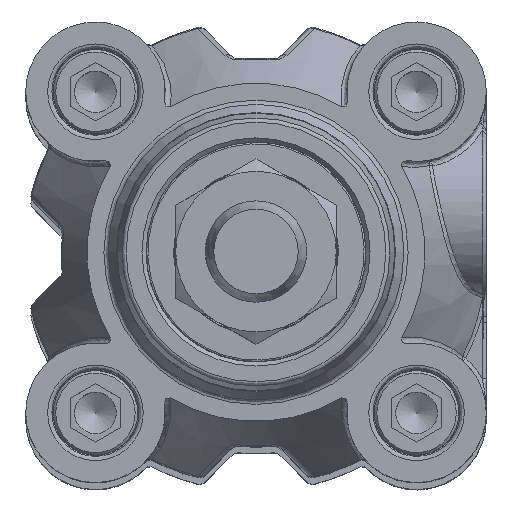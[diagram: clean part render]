
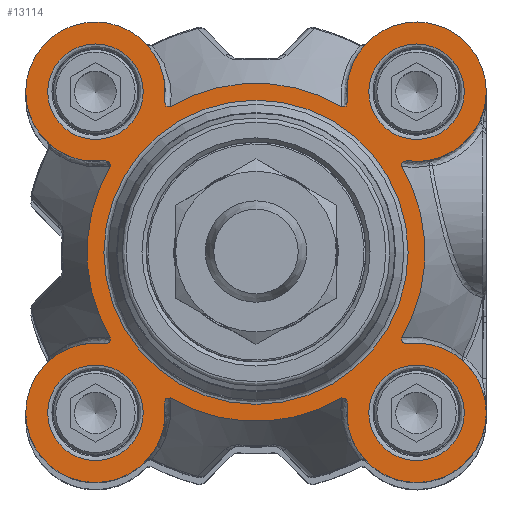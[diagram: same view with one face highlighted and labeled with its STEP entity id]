
A CAD part, top view. The second image highlights one B-rep face of the part: STEP entity #13114.
In plain terms, the highlighted planar face has unit normal (0, 0, 1).
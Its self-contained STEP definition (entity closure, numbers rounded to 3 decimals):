
#203=B_SPLINE_CURVE_WITH_KNOTS('',3,(#19034,#19035,#19036,#19037,#19038),
 .UNSPECIFIED.,.F.,.F.,(4,1,4),(0.,0.5,1.),.UNSPECIFIED.);
#205=B_SPLINE_CURVE_WITH_KNOTS('',3,(#19113,#19114,#19115,#19116,#19117),
 .UNSPECIFIED.,.F.,.F.,(4,1,4),(0.,0.5,1.),.UNSPECIFIED.);
#214=B_SPLINE_CURVE_WITH_KNOTS('',3,(#19276,#19277,#19278,#19279,#19280),
 .UNSPECIFIED.,.F.,.F.,(4,1,4),(0.,0.5,1.),.UNSPECIFIED.);
#215=B_SPLINE_CURVE_WITH_KNOTS('',3,(#19311,#19312,#19313,#19314,#19315),
 .UNSPECIFIED.,.F.,.F.,(4,1,4),(0.,0.5,1.),.UNSPECIFIED.);
#224=B_SPLINE_CURVE_WITH_KNOTS('',3,(#19499,#19500,#19501,#19502,#19503),
 .UNSPECIFIED.,.F.,.F.,(4,1,4),(0.,0.5,1.),.UNSPECIFIED.);
#228=B_SPLINE_CURVE_WITH_KNOTS('',3,(#19624,#19625,#19626,#19627,#19628),
 .UNSPECIFIED.,.F.,.F.,(4,1,4),(0.,0.5,1.),.UNSPECIFIED.);
#233=B_SPLINE_CURVE_WITH_KNOTS('',3,(#19723,#19724,#19725,#19726,#19727),
 .UNSPECIFIED.,.F.,.F.,(4,1,4),(0.,0.5,1.),.UNSPECIFIED.);
#247=B_SPLINE_CURVE_WITH_KNOTS('',3,(#19965,#19966,#19967,#19968,#19969),
 .UNSPECIFIED.,.F.,.F.,(4,1,4),(0.,0.5,1.),.UNSPECIFIED.);
#1885=PLANE('',#13905);
#2765=ORIENTED_EDGE('',*,*,#5528,.F.);
#2766=ORIENTED_EDGE('',*,*,#5529,.F.);
#2767=ORIENTED_EDGE('',*,*,#5517,.F.);
#2768=ORIENTED_EDGE('',*,*,#5509,.F.);
#2769=ORIENTED_EDGE('',*,*,#5513,.F.);
#2770=ORIENTED_EDGE('',*,*,#5521,.F.);
#2771=ORIENTED_EDGE('',*,*,#5310,.T.);
#2772=ORIENTED_EDGE('',*,*,#5456,.F.);
#2773=ORIENTED_EDGE('',*,*,#5449,.F.);
#2774=ORIENTED_EDGE('',*,*,#5466,.F.);
#2775=ORIENTED_EDGE('',*,*,#5252,.T.);
#2776=ORIENTED_EDGE('',*,*,#5486,.F.);
#2777=ORIENTED_EDGE('',*,*,#5477,.F.);
#2778=ORIENTED_EDGE('',*,*,#5414,.F.);
#2779=ORIENTED_EDGE('',*,*,#5346,.T.);
#2780=ORIENTED_EDGE('',*,*,#5416,.F.);
#2781=ORIENTED_EDGE('',*,*,#5426,.F.);
#2782=ORIENTED_EDGE('',*,*,#5431,.F.);
#2783=ORIENTED_EDGE('',*,*,#5382,.T.);
#2784=ORIENTED_EDGE('',*,*,#5432,.F.);
#2785=ORIENTED_EDGE('',*,*,#5442,.F.);
#2786=ORIENTED_EDGE('',*,*,#5447,.F.);
#5252=EDGE_CURVE('',#6750,#6748,#7771,.T.);
#5310=EDGE_CURVE('',#6806,#6804,#7792,.T.);
#5346=EDGE_CURVE('',#6824,#6822,#7806,.T.);
#5382=EDGE_CURVE('',#6842,#6840,#7820,.T.);
#5414=EDGE_CURVE('',#6824,#6853,#203,.F.);
#5416=EDGE_CURVE('',#6854,#6822,#205,.F.);
#5426=EDGE_CURVE('',#6861,#6854,#7834,.T.);
#5431=EDGE_CURVE('',#6842,#6861,#214,.F.);
#5432=EDGE_CURVE('',#6862,#6840,#215,.F.);
#5442=EDGE_CURVE('',#6869,#6862,#7838,.T.);
#5447=EDGE_CURVE('',#6806,#6869,#224,.F.);
#5449=EDGE_CURVE('',#6870,#6872,#7841,.T.);
#5456=EDGE_CURVE('',#6872,#6804,#228,.F.);
#5466=EDGE_CURVE('',#6750,#6870,#233,.F.);
#5477=EDGE_CURVE('',#6853,#6886,#7852,.T.);
#5486=EDGE_CURVE('',#6886,#6748,#247,.F.);
#5509=EDGE_CURVE('',#6904,#6904,#7857,.T.);
#5513=EDGE_CURVE('',#6907,#6907,#7861,.T.);
#5517=EDGE_CURVE('',#6910,#6910,#7865,.T.);
#5521=EDGE_CURVE('',#6913,#6913,#7869,.T.);
#5528=EDGE_CURVE('',#6918,#6919,#7875,.T.);
#5529=EDGE_CURVE('',#6919,#6918,#7876,.T.);
#6748=VERTEX_POINT('',#18006);
#6750=VERTEX_POINT('',#18009);
#6804=VERTEX_POINT('',#18223);
#6806=VERTEX_POINT('',#18226);
#6822=VERTEX_POINT('',#18481);
#6824=VERTEX_POINT('',#18484);
#6840=VERTEX_POINT('',#18741);
#6842=VERTEX_POINT('',#18744);
#6853=VERTEX_POINT('',#19039);
#6854=VERTEX_POINT('',#19118);
#6861=VERTEX_POINT('',#19226);
#6862=VERTEX_POINT('',#19316);
#6869=VERTEX_POINT('',#19436);
#6870=VERTEX_POINT('',#19541);
#6872=VERTEX_POINT('',#19544);
#6886=VERTEX_POINT('',#19753);
#6904=VERTEX_POINT('',#20226);
#6907=VERTEX_POINT('',#20234);
#6910=VERTEX_POINT('',#20242);
#6913=VERTEX_POINT('',#20250);
#6918=VERTEX_POINT('',#20264);
#6919=VERTEX_POINT('',#20265);
#7771=CIRCLE('',#13723,20.);
#7792=CIRCLE('',#13760,20.);
#7806=CIRCLE('',#13786,20.);
#7820=CIRCLE('',#13812,20.);
#7834=CIRCLE('',#13839,8.25);
#7838=CIRCLE('',#13847,8.25);
#7841=CIRCLE('',#13852,8.25);
#7852=CIRCLE('',#13870,8.25);
#7857=CIRCLE('',#13883,5.65);
#7861=CIRCLE('',#13888,5.65);
#7865=CIRCLE('',#13893,5.65);
#7869=CIRCLE('',#13898,5.65);
#7875=CIRCLE('',#13906,18.);
#7876=CIRCLE('',#13907,18.);
#8423=EDGE_LOOP('',(#2765,#2766));
#8424=EDGE_LOOP('',(#2767));
#8425=EDGE_LOOP('',(#2768));
#8426=EDGE_LOOP('',(#2769));
#8427=EDGE_LOOP('',(#2770));
#8428=EDGE_LOOP('',(#2771,#2772,#2773,#2774,#2775,#2776,#2777,#2778,#2779,
#2780,#2781,#2782,#2783,#2784,#2785,#2786));
#9137=FACE_BOUND('',#8423,.T.);
#9138=FACE_BOUND('',#8424,.T.);
#9139=FACE_BOUND('',#8425,.T.);
#9140=FACE_BOUND('',#8426,.T.);
#9141=FACE_BOUND('',#8427,.T.);
#9142=FACE_BOUND('',#8428,.T.);
#13114=ADVANCED_FACE('',(#9137,#9138,#9139,#9140,#9141,#9142),#1885,.T.);
#13723=AXIS2_PLACEMENT_3D('',#18008,#15029,#15030);
#13760=AXIS2_PLACEMENT_3D('',#18225,#15131,#15132);
#13786=AXIS2_PLACEMENT_3D('',#18483,#15188,#15189);
#13812=AXIS2_PLACEMENT_3D('',#18743,#15245,#15246);
#13839=AXIS2_PLACEMENT_3D('',#19227,#15302,#15303);
#13847=AXIS2_PLACEMENT_3D('',#19437,#15320,#15321);
#13852=AXIS2_PLACEMENT_3D('',#19543,#15330,#15331);
#13870=AXIS2_PLACEMENT_3D('',#19771,#15370,#15371);
#13883=AXIS2_PLACEMENT_3D('',#20225,#15397,#15398);
#13888=AXIS2_PLACEMENT_3D('',#20233,#15407,#15408);
#13893=AXIS2_PLACEMENT_3D('',#20241,#15417,#15418);
#13898=AXIS2_PLACEMENT_3D('',#20249,#15427,#15428);
#13905=AXIS2_PLACEMENT_3D('',#20262,#15442,#15443);
#13906=AXIS2_PLACEMENT_3D('',#20263,#15444,#15445);
#13907=AXIS2_PLACEMENT_3D('',#20266,#15446,#15447);
#15029=DIRECTION('',(0.,0.,1.));
#15030=DIRECTION('',(1.,0.,0.));
#15131=DIRECTION('',(0.,0.,1.));
#15132=DIRECTION('',(1.,0.,0.));
#15188=DIRECTION('',(0.,0.,1.));
#15189=DIRECTION('',(1.,0.,0.));
#15245=DIRECTION('',(0.,0.,1.));
#15246=DIRECTION('',(1.,0.,0.));
#15302=DIRECTION('',(0.,0.,-1.));
#15303=DIRECTION('',(1.,0.,0.));
#15320=DIRECTION('',(0.,0.,-1.));
#15321=DIRECTION('',(1.,0.,0.));
#15330=DIRECTION('',(0.,0.,-1.));
#15331=DIRECTION('',(1.,0.,0.));
#15370=DIRECTION('',(0.,0.,-1.));
#15371=DIRECTION('',(1.,0.,0.));
#15397=DIRECTION('',(0.,0.,1.));
#15398=DIRECTION('',(-1.,0.,0.));
#15407=DIRECTION('',(0.,0.,1.));
#15408=DIRECTION('',(-1.,0.,0.));
#15417=DIRECTION('',(0.,0.,1.));
#15418=DIRECTION('',(-1.,0.,0.));
#15427=DIRECTION('',(0.,0.,1.));
#15428=DIRECTION('',(-1.,0.,0.));
#15442=DIRECTION('',(0.,0.,1.));
#15443=DIRECTION('',(1.,0.,0.));
#15444=DIRECTION('',(0.,0.,1.));
#15445=DIRECTION('',(-1.,0.,0.));
#15446=DIRECTION('',(0.,0.,1.));
#15447=DIRECTION('',(-1.,0.,0.));
#18006=CARTESIAN_POINT('',(17.24,10.138,37.));
#18008=CARTESIAN_POINT('',(0.,0.,37.));
#18009=CARTESIAN_POINT('',(17.24,-10.138,37.));
#18223=CARTESIAN_POINT('',(10.138,-17.24,37.));
#18225=CARTESIAN_POINT('',(0.,0.,37.));
#18226=CARTESIAN_POINT('',(-10.138,-17.24,37.));
#18481=CARTESIAN_POINT('',(-10.138,17.24,37.));
#18483=CARTESIAN_POINT('',(0.,0.,37.));
#18484=CARTESIAN_POINT('',(10.138,17.24,37.));
#18741=CARTESIAN_POINT('',(-17.24,-10.138,37.));
#18743=CARTESIAN_POINT('',(0.,0.,37.));
#18744=CARTESIAN_POINT('',(-17.24,10.138,37.));
#19034=CARTESIAN_POINT('',(10.829,17.857,37.));
#19035=CARTESIAN_POINT('',(10.859,17.643,37.));
#19036=CARTESIAN_POINT('',(10.722,17.189,37.));
#19037=CARTESIAN_POINT('',(10.303,17.143,37.));
#19038=CARTESIAN_POINT('',(10.138,17.24,37.));
#19039=CARTESIAN_POINT('',(10.829,17.857,37.));
#19113=CARTESIAN_POINT('',(-10.138,17.24,37.));
#19114=CARTESIAN_POINT('',(-10.302,17.144,37.));
#19115=CARTESIAN_POINT('',(-10.723,17.186,37.));
#19116=CARTESIAN_POINT('',(-10.859,17.647,37.));
#19117=CARTESIAN_POINT('',(-10.829,17.857,37.));
#19118=CARTESIAN_POINT('',(-10.829,17.857,37.));
#19226=CARTESIAN_POINT('',(-17.857,10.829,37.));
#19227=CARTESIAN_POINT('',(-19.,19.,37.));
#19276=CARTESIAN_POINT('',(-17.857,10.829,37.));
#19277=CARTESIAN_POINT('',(-17.643,10.859,37.));
#19278=CARTESIAN_POINT('',(-17.189,10.722,37.));
#19279=CARTESIAN_POINT('',(-17.143,10.303,37.));
#19280=CARTESIAN_POINT('',(-17.24,10.138,37.));
#19311=CARTESIAN_POINT('',(-17.24,-10.138,37.));
#19312=CARTESIAN_POINT('',(-17.144,-10.302,37.));
#19313=CARTESIAN_POINT('',(-17.186,-10.723,37.));
#19314=CARTESIAN_POINT('',(-17.647,-10.859,37.));
#19315=CARTESIAN_POINT('',(-17.857,-10.829,37.));
#19316=CARTESIAN_POINT('',(-17.857,-10.829,37.));
#19436=CARTESIAN_POINT('',(-10.829,-17.857,37.));
#19437=CARTESIAN_POINT('',(-19.,-19.,37.));
#19499=CARTESIAN_POINT('',(-10.829,-17.857,37.));
#19500=CARTESIAN_POINT('',(-10.859,-17.643,37.));
#19501=CARTESIAN_POINT('',(-10.723,-17.189,37.));
#19502=CARTESIAN_POINT('',(-10.303,-17.143,37.));
#19503=CARTESIAN_POINT('',(-10.138,-17.24,37.));
#19541=CARTESIAN_POINT('',(17.857,-10.829,37.));
#19543=CARTESIAN_POINT('',(19.,-19.,37.));
#19544=CARTESIAN_POINT('',(10.829,-17.857,37.));
#19624=CARTESIAN_POINT('',(10.138,-17.24,37.));
#19625=CARTESIAN_POINT('',(10.302,-17.144,37.));
#19626=CARTESIAN_POINT('',(10.723,-17.186,37.));
#19627=CARTESIAN_POINT('',(10.859,-17.647,37.));
#19628=CARTESIAN_POINT('',(10.829,-17.857,37.));
#19723=CARTESIAN_POINT('',(17.857,-10.829,37.));
#19724=CARTESIAN_POINT('',(17.643,-10.859,37.));
#19725=CARTESIAN_POINT('',(17.189,-10.723,37.));
#19726=CARTESIAN_POINT('',(17.143,-10.303,37.));
#19727=CARTESIAN_POINT('',(17.24,-10.138,37.));
#19753=CARTESIAN_POINT('',(17.857,10.829,37.));
#19771=CARTESIAN_POINT('',(19.,19.,37.));
#19965=CARTESIAN_POINT('',(17.24,10.138,37.));
#19966=CARTESIAN_POINT('',(17.144,10.302,37.));
#19967=CARTESIAN_POINT('',(17.186,10.723,37.));
#19968=CARTESIAN_POINT('',(17.647,10.859,37.));
#19969=CARTESIAN_POINT('',(17.857,10.829,37.));
#20225=CARTESIAN_POINT('',(19.,-19.,37.));
#20226=CARTESIAN_POINT('',(24.65,-19.,37.));
#20233=CARTESIAN_POINT('',(19.,19.,37.));
#20234=CARTESIAN_POINT('',(24.65,19.,37.));
#20241=CARTESIAN_POINT('',(-19.,19.,37.));
#20242=CARTESIAN_POINT('',(-13.35,19.,37.));
#20249=CARTESIAN_POINT('',(-19.,-19.,37.));
#20250=CARTESIAN_POINT('',(-13.35,-19.,37.));
#20262=CARTESIAN_POINT('',(18.75,0.,37.));
#20263=CARTESIAN_POINT('',(0.,0.,37.));
#20264=CARTESIAN_POINT('',(18.,0.,37.));
#20265=CARTESIAN_POINT('',(-18.,0.,37.));
#20266=CARTESIAN_POINT('',(0.,0.,37.));
